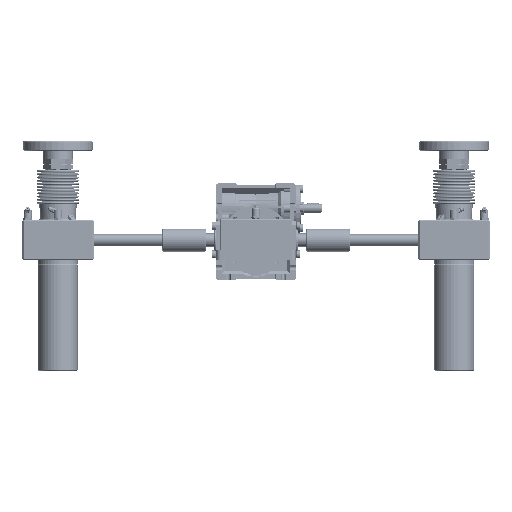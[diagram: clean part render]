
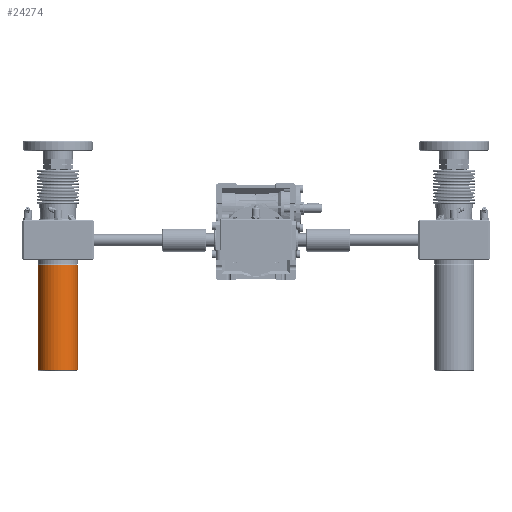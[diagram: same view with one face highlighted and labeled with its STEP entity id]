
A CAD part, front view. The second image highlights one B-rep face of the part: STEP entity #24274.
In plain terms, the highlighted cylindrical face has radius 25 mm (diameter 50 mm), a full revolution.
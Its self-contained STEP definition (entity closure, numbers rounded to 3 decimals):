
#24274=ADVANCED_FACE('',(#49495,#49496),#49497,.T.);
#49495=FACE_OUTER_BOUND('',#92006,.T.);
#49496=FACE_OUTER_BOUND('',#92007,.T.);
#49497=CYLINDRICAL_SURFACE('',#92008,25.0);
#92006=EDGE_LOOP('',(#181379));
#92007=EDGE_LOOP('',(#181380));
#92008=AXIS2_PLACEMENT_3D('',#181381,#181382,#181383);
#181379=ORIENTED_EDGE('',*,*,#258565,.T.);
#181380=ORIENTED_EDGE('',*,*,#258566,.T.);
#181381=CARTESIAN_POINT('',(0.0,0.0,135.0));
#181382=DIRECTION('',(0.0,0.0,-1.0));
#181383=DIRECTION('',(-1.0,0.0,0.0));
#258565=EDGE_CURVE('',#323698,#323698,#323699,.T.);
#258566=EDGE_CURVE('',#323700,#323700,#323701,.F.);
#323698=VERTEX_POINT('',#449246);
#323699=CIRCLE('',#449247,25.0);
#323700=VERTEX_POINT('',#449248);
#323701=CIRCLE('',#449249,25.0);
#449246=CARTESIAN_POINT('',(25.0,0.0,1.0));
#449247=AXIS2_PLACEMENT_3D('',#538787,#538788,#538789);
#449248=CARTESIAN_POINT('',(25.0,0.0,134.0));
#449249=AXIS2_PLACEMENT_3D('',#538790,#538791,#538792);
#538787=CARTESIAN_POINT('',(0.0,0.0,1.0));
#538788=DIRECTION('',(0.0,0.0,1.0));
#538789=DIRECTION('',(1.0,0.0,0.0));
#538790=CARTESIAN_POINT('',(0.0,0.0,134.0));
#538791=DIRECTION('',(0.0,0.0,1.0));
#538792=DIRECTION('',(1.0,0.0,0.0));
